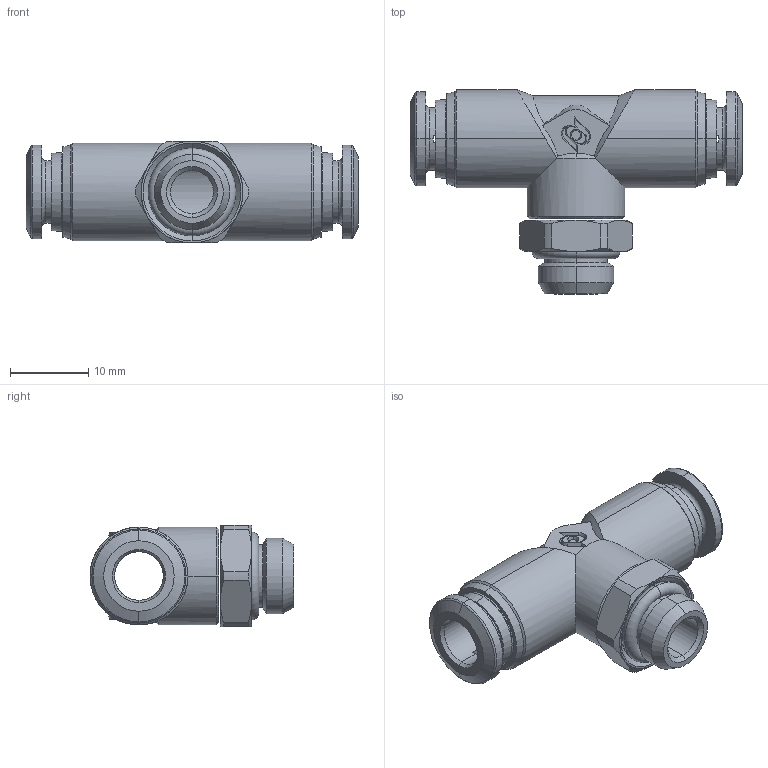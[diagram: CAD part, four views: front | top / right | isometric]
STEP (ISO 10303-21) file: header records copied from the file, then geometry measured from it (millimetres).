
FILE_DESCRIPTION (( 'STEP AP214' ), '1' );
FILE_NAME ('40216V0008A.STEP', '2016-05-19T07:24:06', ( '' ), ( '' ), 'SwSTEP 2.0', 'SolidWorks 2016', '' );
FILE_SCHEMA (( 'AUTOMOTIVE_DESIGN' ));
Length unit declared in the file: millimetre
Products named in the file (1): 40216V0008A
Bounding box: 42.4 x 26.05 x 13 mm (x, y, z)
Surface area: 3546.5 mm2 (no closed solid volume)
Topology: 0 solids, 8 shells, 184 faces, 519 edges, 342 vertices
Faces by surface type: cone 63, plane 58, cylinder 45, torus 14, bspline 4
Entity records: 8956 total; most frequent: CARTESIAN_POINT 2247, DIRECTION 983, ORIENTED_EDGE 936, EDGE_CURVE 519, AXIS2_PLACEMENT_3D 394, VERTEX_POINT 342, CIRCLE 213, EDGE_LOOP 204
